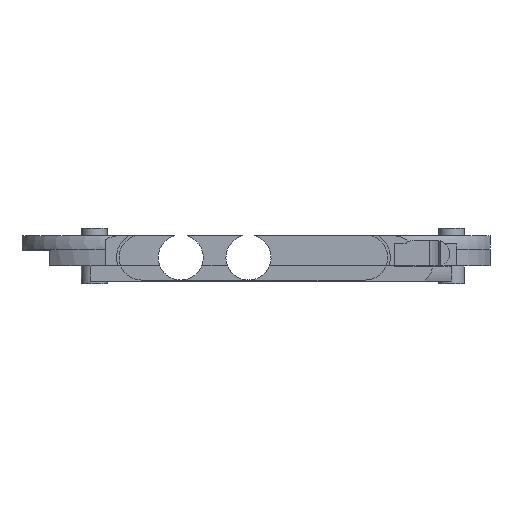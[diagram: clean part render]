
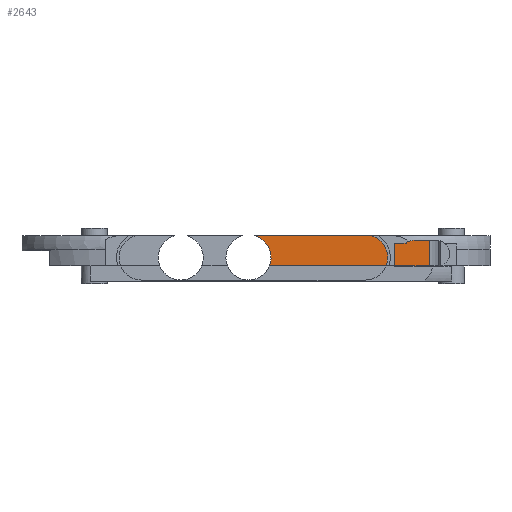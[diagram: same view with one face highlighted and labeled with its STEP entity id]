
A CAD part, left-side view. The second image highlights one B-rep face of the part: STEP entity #2643.
In plain terms, the highlighted planar face has unit normal (-1, 0, 0).
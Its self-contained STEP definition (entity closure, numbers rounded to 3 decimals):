
#44 = PLANE('',#45);
#45 = AXIS2_PLACEMENT_3D('',#46,#47,#48);
#46 = CARTESIAN_POINT('',(-38.2,-62.2,20.));
#47 = DIRECTION('',(0.,0.,1.));
#48 = DIRECTION('',(1.,0.,0.));
#541 = VERTEX_POINT('',#542);
#542 = CARTESIAN_POINT('',(31.,0.286,20.));
#556 = CYLINDRICAL_SURFACE('',#557,6.);
#557 = AXIS2_PLACEMENT_3D('',#558,#559,#560);
#558 = CARTESIAN_POINT('',(38.,2.,14.25));
#559 = DIRECTION('',(1.,0.,0.));
#560 = DIRECTION('',(0.,1.,0.));
#568 = EDGE_CURVE('',#569,#541,#571,.T.);
#569 = VERTEX_POINT('',#570);
#570 = CARTESIAN_POINT('',(31.,-46.,20.));
#571 = SURFACE_CURVE('',#572,(#576,#583),.PCURVE_S1.);
#572 = LINE('',#573,#574);
#573 = CARTESIAN_POINT('',(31.,-56.6,20.));
#574 = VECTOR('',#575,1.);
#575 = DIRECTION('',(0.,1.,0.));
#576 = PCURVE('',#44,#577);
#577 = DEFINITIONAL_REPRESENTATION('',(#578),#582);
#578 = LINE('',#579,#580);
#579 = CARTESIAN_POINT('',(69.2,5.6));
#580 = VECTOR('',#581,1.);
#581 = DIRECTION('',(0.,1.));
#582 = ( GEOMETRIC_REPRESENTATION_CONTEXT(2) 
PARAMETRIC_REPRESENTATION_CONTEXT() REPRESENTATION_CONTEXT('2D SPACE',''
  ) );
#583 = PCURVE('',#584,#589);
#584 = PLANE('',#585);
#585 = AXIS2_PLACEMENT_3D('',#586,#587,#588);
#586 = CARTESIAN_POINT('',(31.,-51.,10.));
#587 = DIRECTION('',(1.,0.,0.));
#588 = DIRECTION('',(0.,0.,1.));
#589 = DEFINITIONAL_REPRESENTATION('',(#590),#593);
#590 = B_SPLINE_CURVE_WITH_KNOTS('',1,(#591,#592),.UNSPECIFIED.,.F.,.F.,
  (2,2),(10.6,94.6),.PIECEWISE_BEZIER_KNOTS.);
#591 = CARTESIAN_POINT('',(10.,-5.));
#592 = CARTESIAN_POINT('',(10.,-89.));
#593 = ( GEOMETRIC_REPRESENTATION_CONTEXT(2) 
PARAMETRIC_REPRESENTATION_CONTEXT() REPRESENTATION_CONTEXT('2D SPACE',''
  ) );
#612 = CYLINDRICAL_SURFACE('',#613,5.);
#613 = AXIS2_PLACEMENT_3D('',#614,#615,#616);
#614 = CARTESIAN_POINT('',(26.,-46.,10.));
#615 = DIRECTION('',(0.,0.,1.));
#616 = DIRECTION('',(1.,0.,-0.));
#1795 = PLANE('',#1796);
#1796 = AXIS2_PLACEMENT_3D('',#1797,#1798,#1799);
#1797 = CARTESIAN_POINT('',(-38.2,-62.2,12.));
#1798 = DIRECTION('',(0.,0.,1.));
#1799 = DIRECTION('',(1.,0.,0.));
#2548 = EDGE_CURVE('',#541,#2549,#2551,.T.);
#2549 = VERTEX_POINT('',#2550);
#2550 = CARTESIAN_POINT('',(31.,-3.562,12.));
#2551 = SURFACE_CURVE('',#2552,(#2557,#2563),.PCURVE_S1.);
#2552 = CIRCLE('',#2553,6.);
#2553 = AXIS2_PLACEMENT_3D('',#2554,#2555,#2556);
#2554 = CARTESIAN_POINT('',(31.,2.,14.25));
#2555 = DIRECTION('',(1.,0.,0.));
#2556 = DIRECTION('',(-0.,1.,0.));
#2557 = PCURVE('',#556,#2558);
#2558 = DEFINITIONAL_REPRESENTATION('',(#2559),#2562);
#2559 = B_SPLINE_CURVE_WITH_KNOTS('',1,(#2560,#2561),.UNSPECIFIED.,.F.,
  .F.,(2,2),(1.86,3.526),.PIECEWISE_BEZIER_KNOTS.);
#2560 = CARTESIAN_POINT('',(1.86,-7.));
#2561 = CARTESIAN_POINT('',(3.526,-7.));
#2562 = ( GEOMETRIC_REPRESENTATION_CONTEXT(2) 
PARAMETRIC_REPRESENTATION_CONTEXT() REPRESENTATION_CONTEXT('2D SPACE',''
  ) );
#2563 = PCURVE('',#584,#2564);
#2564 = DEFINITIONAL_REPRESENTATION('',(#2565),#2569);
#2565 = CIRCLE('',#2566,6.);
#2566 = AXIS2_PLACEMENT_2D('',#2567,#2568);
#2567 = CARTESIAN_POINT('',(4.25,-53.));
#2568 = DIRECTION('',(0.,-1.));
#2569 = ( GEOMETRIC_REPRESENTATION_CONTEXT(2) 
PARAMETRIC_REPRESENTATION_CONTEXT() REPRESENTATION_CONTEXT('2D SPACE',''
  ) );
#2643 = ADVANCED_FACE('',(#2644),#584,.F.);
#2644 = FACE_BOUND('',#2645,.F.);
#2645 = EDGE_LOOP('',(#2646,#2647,#2670,#2690));
#2646 = ORIENTED_EDGE('',*,*,#568,.F.);
#2647 = ORIENTED_EDGE('',*,*,#2648,.F.);
#2648 = EDGE_CURVE('',#2649,#569,#2651,.T.);
#2649 = VERTEX_POINT('',#2650);
#2650 = CARTESIAN_POINT('',(31.,-46.,12.));
#2651 = SURFACE_CURVE('',#2652,(#2656,#2663),.PCURVE_S1.);
#2652 = LINE('',#2653,#2654);
#2653 = CARTESIAN_POINT('',(31.,-46.,10.));
#2654 = VECTOR('',#2655,1.);
#2655 = DIRECTION('',(0.,0.,1.));
#2656 = PCURVE('',#584,#2657);
#2657 = DEFINITIONAL_REPRESENTATION('',(#2658),#2662);
#2658 = LINE('',#2659,#2660);
#2659 = CARTESIAN_POINT('',(0.,-5.));
#2660 = VECTOR('',#2661,1.);
#2661 = DIRECTION('',(1.,0.));
#2662 = ( GEOMETRIC_REPRESENTATION_CONTEXT(2) 
PARAMETRIC_REPRESENTATION_CONTEXT() REPRESENTATION_CONTEXT('2D SPACE',''
  ) );
#2663 = PCURVE('',#612,#2664);
#2664 = DEFINITIONAL_REPRESENTATION('',(#2665),#2669);
#2665 = LINE('',#2666,#2667);
#2666 = CARTESIAN_POINT('',(-0.,0.));
#2667 = VECTOR('',#2668,1.);
#2668 = DIRECTION('',(-0.,1.));
#2669 = ( GEOMETRIC_REPRESENTATION_CONTEXT(2) 
PARAMETRIC_REPRESENTATION_CONTEXT() REPRESENTATION_CONTEXT('2D SPACE',''
  ) );
#2670 = ORIENTED_EDGE('',*,*,#2671,.T.);
#2671 = EDGE_CURVE('',#2649,#2549,#2672,.T.);
#2672 = SURFACE_CURVE('',#2673,(#2677,#2683),.PCURVE_S1.);
#2673 = LINE('',#2674,#2675);
#2674 = CARTESIAN_POINT('',(31.,-56.6,12.));
#2675 = VECTOR('',#2676,1.);
#2676 = DIRECTION('',(0.,1.,0.));
#2677 = PCURVE('',#584,#2678);
#2678 = DEFINITIONAL_REPRESENTATION('',(#2679),#2682);
#2679 = B_SPLINE_CURVE_WITH_KNOTS('',1,(#2680,#2681),.UNSPECIFIED.,.F.,
  .F.,(2,2),(10.6,94.6),.PIECEWISE_BEZIER_KNOTS.);
#2680 = CARTESIAN_POINT('',(2.,-5.));
#2681 = CARTESIAN_POINT('',(2.,-89.));
#2682 = ( GEOMETRIC_REPRESENTATION_CONTEXT(2) 
PARAMETRIC_REPRESENTATION_CONTEXT() REPRESENTATION_CONTEXT('2D SPACE',''
  ) );
#2683 = PCURVE('',#1795,#2684);
#2684 = DEFINITIONAL_REPRESENTATION('',(#2685),#2689);
#2685 = LINE('',#2686,#2687);
#2686 = CARTESIAN_POINT('',(69.2,5.6));
#2687 = VECTOR('',#2688,1.);
#2688 = DIRECTION('',(0.,1.));
#2689 = ( GEOMETRIC_REPRESENTATION_CONTEXT(2) 
PARAMETRIC_REPRESENTATION_CONTEXT() REPRESENTATION_CONTEXT('2D SPACE',''
  ) );
#2690 = ORIENTED_EDGE('',*,*,#2548,.F.);
